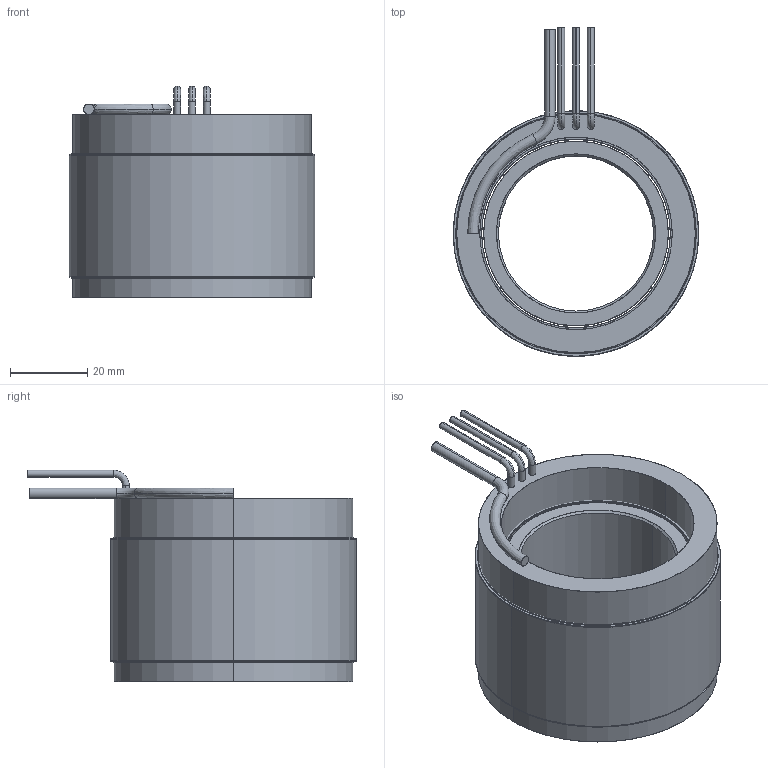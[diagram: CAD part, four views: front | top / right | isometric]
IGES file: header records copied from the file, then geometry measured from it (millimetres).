
Start section: SolidWorks IGES file using analytic representation for surfaces
Global section: file name: \\fs01.aveox.local\user documents\eng\My Documents\6100391-XX UAV STANDARD STATOR AND ROTOR SET 2.5OD 27S24P\6100391-04.IGS; native system: SolidWorks 2016; preprocessor: SolidWorks 2016; author: eng; date: 201214.184115; units: inch
Bounding box: 63.5 x 84.96 x 54.74 mm (x, y, z)
Surface area: 53378.4 mm2 (no closed solid volume)
Topology: 0 solids, 0 shells, 75 faces, 2288 edges, 2288 vertices
Faces by surface type: revolution 46, bspline 29
